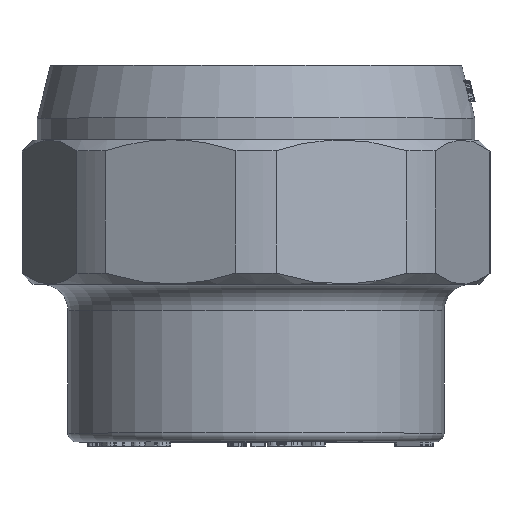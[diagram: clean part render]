
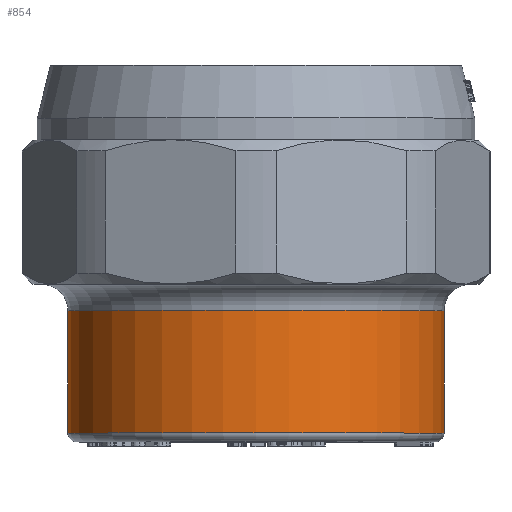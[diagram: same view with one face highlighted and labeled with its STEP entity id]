
A CAD part, top view. The second image highlights one B-rep face of the part: STEP entity #854.
In plain terms, the highlighted cylindrical face has radius 21.5 mm (diameter 43 mm), a full revolution.
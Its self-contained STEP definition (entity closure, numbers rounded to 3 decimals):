
#854=ADVANCED_FACE('',(#5078,#5080),#5082,.T.);
#5078=FACE_OUTER_BOUND('',#5079,.T.);
#5079=EDGE_LOOP('',(#10890));
#5080=FACE_OUTER_BOUND('',#5081,.T.);
#5081=EDGE_LOOP('',(#10891));
#5082=CYLINDRICAL_SURFACE('',#5083,21.5);
#5083=AXIS2_PLACEMENT_3D('',#5084,#5085,#5086);
#5084=CARTESIAN_POINT('',(0.,0.,0.));
#5085=DIRECTION('',(0.,1.,0.));
#5086=DIRECTION('',(-1.,0.,0.));
#10890=ORIENTED_EDGE('',*,*,#14186,.F.);
#10891=ORIENTED_EDGE('',*,*,#13283,.T.);
#13283=EDGE_CURVE('',#16282,#16282,#16283,.T.);
#14186=EDGE_CURVE('',#17639,#17639,#17640,.T.);
#16282=VERTEX_POINT('',#24286);
#16283=CIRCLE('',#24287,21.5);
#17639=VERTEX_POINT('',#27453);
#17640=CIRCLE('',#27454,21.5);
#24286=CARTESIAN_POINT('',(-21.5,1.,0.));
#24287=AXIS2_PLACEMENT_3D('',#24288,#24289,#24290);
#24288=CARTESIAN_POINT('',(0.,1.,0.));
#24289=DIRECTION('',(0.,1.,0.));
#24290=DIRECTION('',(-1.,0.,0.));
#27453=CARTESIAN_POINT('',(-21.5,15.,0.));
#27454=AXIS2_PLACEMENT_3D('',#27455,#27456,#27457);
#27455=CARTESIAN_POINT('',(0.,15.,0.));
#27456=DIRECTION('',(0.,1.,0.));
#27457=DIRECTION('',(-1.,0.,0.));
